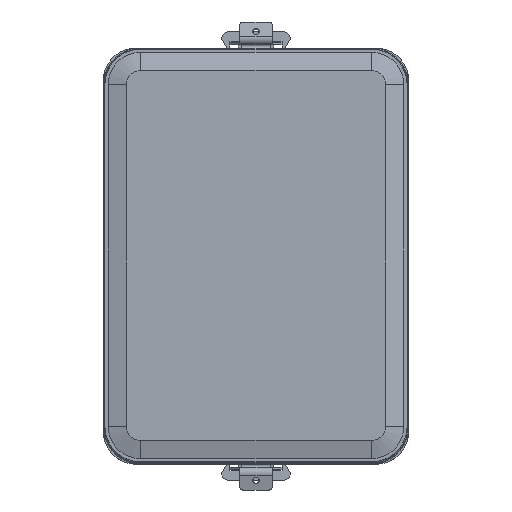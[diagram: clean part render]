
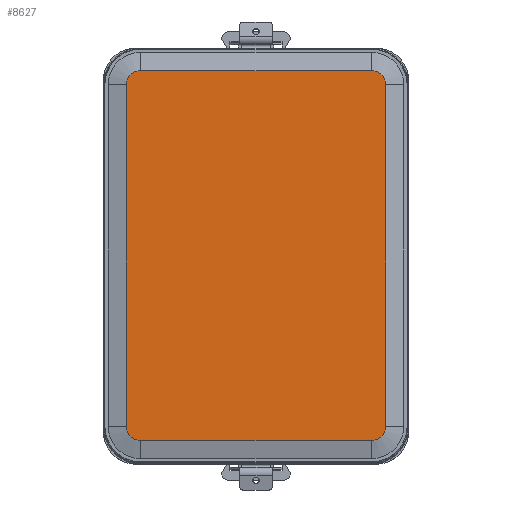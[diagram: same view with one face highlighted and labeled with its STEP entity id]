
A CAD part, top view. The second image highlights one B-rep face of the part: STEP entity #8627.
In plain terms, the highlighted planar face has unit normal (0, 0, 1).
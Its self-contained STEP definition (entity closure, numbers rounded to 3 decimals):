
#8627=ADVANCED_FACE('',(#16247),#16249,.T.);
#16247=FACE_BOUND('',#16248,.T.);
#16248=EDGE_LOOP('',(#28924,#28925,#28926,#28927,#28928,#28929,#28930,#28931));
#16249=PLANE('',#16250);
#16250=AXIS2_PLACEMENT_3D('',#16251,#16252,#16253);
#16251=CARTESIAN_POINT('',(0.,0.,127.5));
#16252=DIRECTION('',(0.,0.,1.));
#16253=DIRECTION('',(1.,0.,0.));
#28924=ORIENTED_EDGE('',*,*,#31382,.T.);
#28925=ORIENTED_EDGE('',*,*,#31380,.T.);
#28926=ORIENTED_EDGE('',*,*,#31378,.T.);
#28927=ORIENTED_EDGE('',*,*,#31376,.T.);
#28928=ORIENTED_EDGE('',*,*,#31374,.T.);
#28929=ORIENTED_EDGE('',*,*,#31372,.T.);
#28930=ORIENTED_EDGE('',*,*,#31370,.T.);
#28931=ORIENTED_EDGE('',*,*,#31367,.T.);
#31367=EDGE_CURVE('',#35241,#35242,#35243,.F.);
#31370=EDGE_CURVE('',#35246,#35241,#35247,.T.);
#31372=EDGE_CURVE('',#35249,#35246,#35250,.F.);
#31374=EDGE_CURVE('',#35252,#35249,#35253,.T.);
#31376=EDGE_CURVE('',#35255,#35252,#35256,.F.);
#31378=EDGE_CURVE('',#35258,#35255,#35259,.T.);
#31380=EDGE_CURVE('',#35261,#35258,#35262,.F.);
#31382=EDGE_CURVE('',#35242,#35261,#35264,.T.);
#35241=VERTEX_POINT('',#45106);
#35242=VERTEX_POINT('',#45107);
#35243=LINE('',#45108,#45109);
#35246=VERTEX_POINT('',#45117);
#35247=CIRCLE('',#45118,4.402);
#35249=VERTEX_POINT('',#45125);
#35250=LINE('',#45126,#45127);
#35252=VERTEX_POINT('',#45132);
#35253=CIRCLE('',#45133,4.402);
#35255=VERTEX_POINT('',#45140);
#35256=LINE('',#45141,#45142);
#35258=VERTEX_POINT('',#45147);
#35259=CIRCLE('',#45148,4.402);
#35261=VERTEX_POINT('',#45155);
#35262=LINE('',#45156,#45157);
#35264=CIRCLE('',#45162,4.402);
#45106=CARTESIAN_POINT('',(-35.5,-56.902,127.5));
#45107=CARTESIAN_POINT('',(35.5,-56.902,127.5));
#45108=CARTESIAN_POINT('',(35.5,-56.902,127.5));
#45109=VECTOR('',#45110,1.);
#45110=DIRECTION('',(-1.,0.,0.));
#45117=CARTESIAN_POINT('',(-39.902,-52.5,127.5));
#45118=AXIS2_PLACEMENT_3D('',#45119,#45120,#45121);
#45119=CARTESIAN_POINT('',(-35.5,-52.5,127.5));
#45120=DIRECTION('',(0.,-0.,1.));
#45121=DIRECTION('',(-1.,0.,0.));
#45125=CARTESIAN_POINT('',(-39.902,52.5,127.5));
#45126=CARTESIAN_POINT('',(-39.902,-52.5,127.5));
#45127=VECTOR('',#45128,1.);
#45128=DIRECTION('',(0.,1.,0.));
#45132=CARTESIAN_POINT('',(-35.5,56.902,127.5));
#45133=AXIS2_PLACEMENT_3D('',#45134,#45135,#45136);
#45134=CARTESIAN_POINT('',(-35.5,52.5,127.5));
#45135=DIRECTION('',(0.,-0.,1.));
#45136=DIRECTION('',(0.,1.,0.));
#45140=CARTESIAN_POINT('',(35.5,56.902,127.5));
#45141=CARTESIAN_POINT('',(-35.5,56.902,127.5));
#45142=VECTOR('',#45143,1.);
#45143=DIRECTION('',(1.,0.,0.));
#45147=CARTESIAN_POINT('',(39.902,52.5,127.5));
#45148=AXIS2_PLACEMENT_3D('',#45149,#45150,#45151);
#45149=CARTESIAN_POINT('',(35.5,52.5,127.5));
#45150=DIRECTION('',(-0.,0.,1.));
#45151=DIRECTION('',(1.,0.,0.));
#45155=CARTESIAN_POINT('',(39.902,-52.5,127.5));
#45156=CARTESIAN_POINT('',(39.902,52.5,127.5));
#45157=VECTOR('',#45158,1.);
#45158=DIRECTION('',(0.,-1.,0.));
#45162=AXIS2_PLACEMENT_3D('',#45163,#45164,#45165);
#45163=CARTESIAN_POINT('',(35.5,-52.5,127.5));
#45164=DIRECTION('',(-0.,0.,1.));
#45165=DIRECTION('',(0.,-1.,0.));
